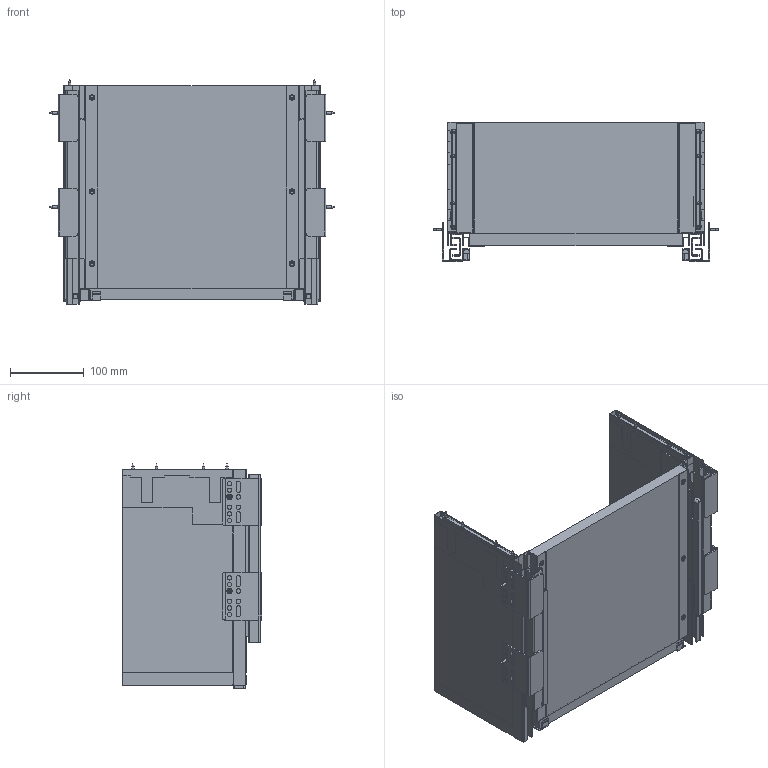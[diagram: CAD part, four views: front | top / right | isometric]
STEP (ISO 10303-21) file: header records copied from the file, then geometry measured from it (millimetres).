
FILE_DESCRIPTION(/* description */ (''),/* implementation_level */ '2;1');
FILE_NAME(/* name */ 'D:\$Workingspace\Designs\Katalog\Cadsoft\GTV Prowadnice\GTV 3D AXISPRO\Model\PB-AXISPRO-KPL300C_C1.stp',/* time_stamp */ '2019-12-16T09:59:45+01:00',/* author */ ('tomaszw'),/* organization */ (''),/* preprocessor_version */ 'ST-DEVELOPER v17.2',/* originating_system */ 'Autodesk Inventor 2019',/* authorisation */ '');
FILE_SCHEMA (('AUTOMOTIVE_DESIGN { 1 0 10303 214 3 1 1 }'));
Products named in the file (1): PB-AXISPRO-KPL300C1-F
Bounding box: 388.6 x 190 x 304.9 mm (x, y, z)
Volume: 2548617.8 mm3; surface area: 1069320.2 mm2
Topology: 47 solids, 49 shells, 1898 faces, 4966 edges, 3252 vertices
Faces by surface type: plane 1356, cylinder 314, bspline 116, cone 104, sphere 6, torus 2
Full cylindrical faces by diameter (mm): 2 x4, 3.5 x32, 6 x40, 7.5 x26, 7.8 x2, 8.5 x2, 10 x6
Entity records: 59186 total; most frequent: CARTESIAN_POINT 12235, ORIENTED_EDGE 9916, DIRECTION 9044, EDGE_CURVE 4958, LINE 3914, VECTOR 3914, VERTEX_POINT 3252, AXIS2_PLACEMENT_3D 2565
